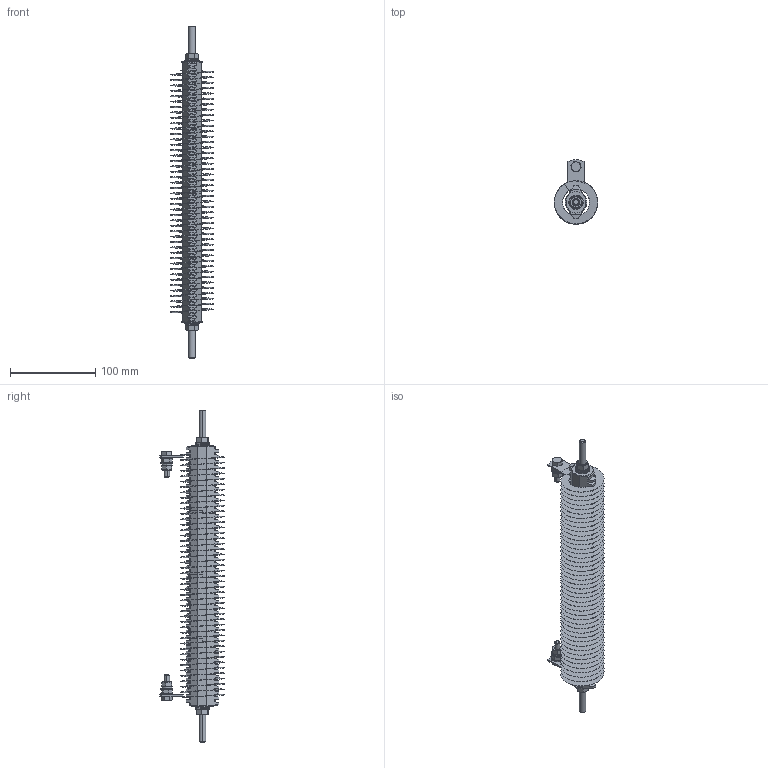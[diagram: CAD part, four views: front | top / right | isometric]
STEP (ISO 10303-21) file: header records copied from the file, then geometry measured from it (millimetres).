
FILE_DESCRIPTION (( 'STEP AP214' ), '1' );
FILE_NAME ('EDGS0800.STEP', '2014-06-05T12:45:39', ( '' ), ( '' ), 'SwSTEP 2.0', 'SolidWorks 2012', '' );
FILE_SCHEMA (( 'AUTOMOTIVE_DESIGN' ));
Length unit declared in the file: millimetre
Products named in the file (14): 032-012 - STUD MOUNT CERAMICS_032-012-TSMCL; Hex Nut01_0.3125" - 0.26" thk; Lock Washer_0.3125" - 0.08" thk; Flat Washer_.3125" - .68" - .05"thk; Flat Washer_.25" - .5" - .04"thk; 12-800-011; lock washer spring_Regular LW 0.25; hex nut_HNUT 0.2500-20-D-C; Hex Head Srew_HBOLT 0.2500-20x1x1-C; 326167; Helical Coil_800; 032-012 - STUD MOUNT CERAMICS_032-012-TSECL; 0.30 inch threaded rod_0.3125" - 15.375" long; EDGS0800
Assembly tree (28 placements, depth 2):
  EDGS0800
    0.30 inch threaded rod_0.3125" - 15.375" long
    032-012 - STUD MOUNT CERAMICS_032-012-TSECL  x2
    Helical Coil_800
    326167  x2
    Hex Head Srew_HBOLT 0.2500-20x1x1-C  x2
    hex nut_HNUT 0.2500-20-D-C  x4
    lock washer spring_Regular LW 0.25  x2
    12-800-011  x2
    Flat Washer_.25" - .5" - .04"thk  x4
    Flat Washer_.3125" - .68" - .05"thk  x2
    Lock Washer_0.3125" - 0.08" thk  x2
    Hex Nut01_0.3125" - 0.26" thk  x2
    032-012 - STUD MOUNT CERAMICS_032-012-TSMCL  x2
Bounding box: 50.8 x 75.4 x 390.53 mm (x, y, z)
Volume: 190559.4 mm3; surface area: 179863.2 mm2
Topology: 28 solids, 28 shells, 790 faces, 2070 edges, 1332 vertices
Faces by surface type: bspline 300, plane 260, cone 120, cylinder 94, torus 16
Entity records: 138117 total; most frequent: CARTESIAN_POINT 130006, ORIENTED_EDGE 1952, DIRECTION 1043, EDGE_CURVE 976, VERTEX_POINT 632, AXIS2_PLACEMENT_3D 390, EDGE_LOOP 382, ADVANCED_FACE 368
